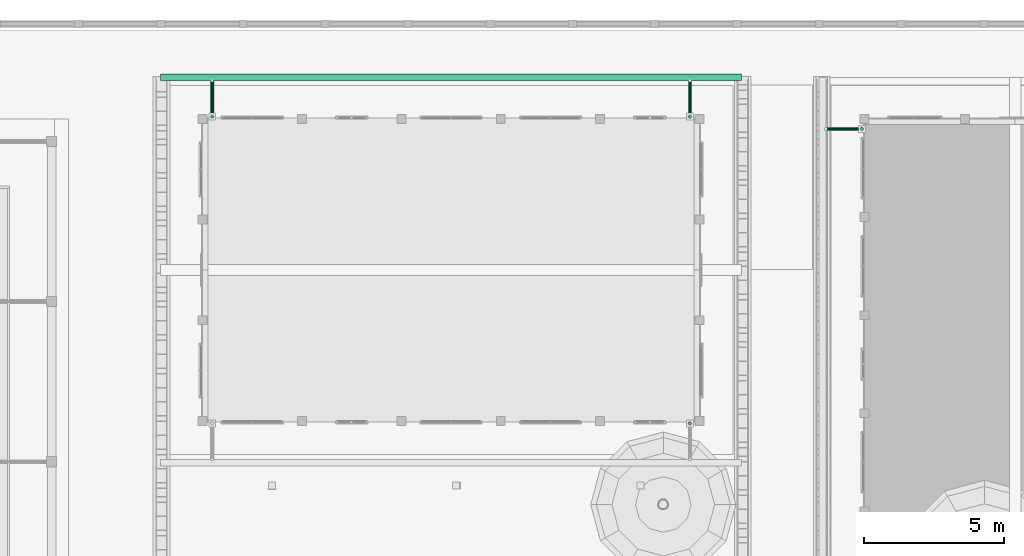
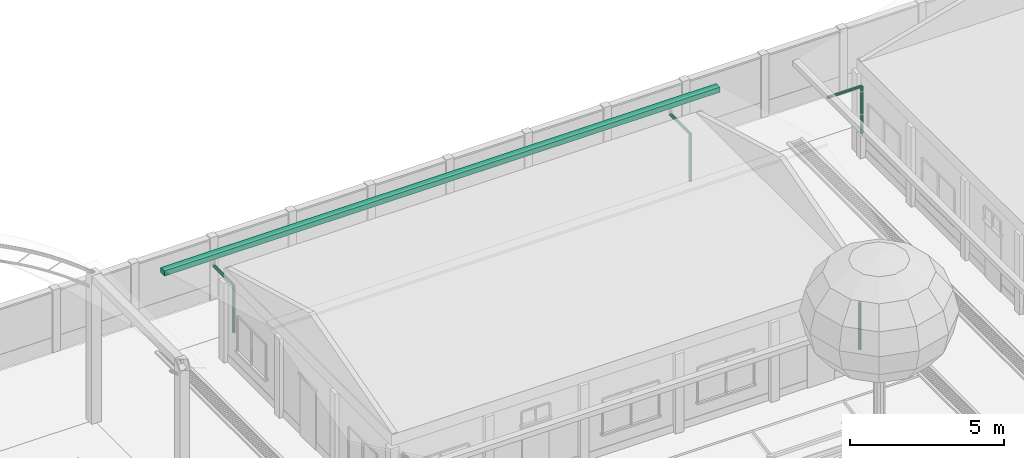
# One storey, part 104 of 166: 8 flow segments.
"""IFC2X3 building model written with IfcOpenShell, lengths in metres."""

from ifc_helpers import new_model, si_unit, origin, origin_with_axes, place, context, subcontext, project, spatial, faceted_brep, element, save


model = new_model("IFC2X3")

# Units and contexts
model_context = context("Model", 3, precision=1e-05, world=origin_with_axes())
body_context = subcontext(model_context, "Body", "Model", "MODEL_VIEW")
ifc_project = project(units=[si_unit("LENGTHUNIT", "METRE"), si_unit("AREAUNIT", "SQUARE_METRE"), si_unit("VOLUMEUNIT", "CUBIC_METRE"), si_unit("PLANEANGLEUNIT", "RADIAN")], contexts=[model_context])

# Site, building, storey
site_placement = place(None, origin_with_axes())
site = spatial("IfcSite", under=ifc_project, at=site_placement, Name="Predio Los Mangos - Morales, San Martín", CompositionType="ELEMENT")
building_placement = place(site_placement, origin())
building = spatial("IfcBuilding", under=site, at=building_placement, Name="Hogar de Refugio Temporal", CompositionType="ELEMENT")
storey_placement = place(building_placement, origin())
storey = spatial("IfcBuildingStorey", under=building, at=storey_placement, Name="NIVEL 1 (NPT +0.00)", CompositionType="ELEMENT", Elevation=0.0)

# Flow segments
flow_segment_1_placement = place(storey_placement, origin())
element("IfcFlowSegment", 1, at=flow_segment_1_placement, inside=storey, Name="E-08_canaleta", ObjectType="Canaleta", context=body_context, shape_type="Brep", body=[
    faceted_brep([(30.5, 129.18, 3.13), (30.5, 129.42, 3.13), (51.3, 129.42, 3.13), (51.3, 129.18, 3.13), (30.5, 129.18, 3.33), (51.3, 129.18, 3.33), (51.3, 129.42, 3.33), (30.5, 129.42, 3.33)], [[[0, 1, 2, 3]], [[4, 5, 6, 7]], [[0, 3, 5, 4]], [[3, 2, 6, 5]], [[2, 1, 7, 6]], [[1, 0, 4, 7]]]),
])
flow_segment_2_placement = place(storey_placement, origin())
element("IfcFlowSegment", 2, at=flow_segment_2_placement, inside=storey, Name="montante_bajada", ObjectType="Montante PVC 4\"", context=body_context, shape_type="Brep", body=[
    faceted_brep([(49.45, 116.965, 2.91), (49.45, 116.965, 1.05), (49.4225, 116.9576, 1.05), (49.4225, 116.9576, 2.91), (49.4024, 116.9375, 1.05), (49.4024, 116.9375, 2.91), (49.395, 116.91, 1.05), (49.395, 116.91, 2.91), (49.4024, 116.8825, 1.05), (49.4024, 116.8825, 2.91), (49.4225, 116.8624, 1.05), (49.4225, 116.8624, 2.91), (49.45, 116.855, 1.05), (49.45, 116.855, 2.91), (49.4775, 116.8624, 1.05), (49.4775, 116.8624, 2.91), (49.4976, 116.8825, 1.05), (49.4976, 116.8825, 2.91), (49.505, 116.91, 1.05), (49.505, 116.91, 2.91), (49.4976, 116.9375, 1.05), (49.4976, 116.9375, 2.91), (49.4775, 116.9576, 1.05), (49.4775, 116.9576, 2.91)], [[[0, 1, 2, 3]], [[3, 2, 4, 5]], [[5, 4, 6, 7]], [[7, 6, 8, 9]], [[9, 8, 10, 11]], [[11, 10, 12, 13]], [[13, 12, 14, 15]], [[15, 14, 16, 17]], [[17, 16, 18, 19]], [[19, 18, 20, 21]], [[2, 1, 22, 20, 18, 16, 14, 12, 10, 8, 6, 4]], [[21, 20, 22, 23]], [[23, 22, 1, 0]], [[0, 3, 5, 7, 9, 11, 13, 15, 17, 19, 21, 23]]]),
])
flow_segment_3_placement = place(storey_placement, origin())
element("IfcFlowSegment", 3, at=flow_segment_3_placement, inside=storey, Name="montante_desvio", ObjectType="Montante PVC 4\"", context=body_context, shape_type="Brep", body=[
    faceted_brep([(32.35, 129.18, 2.965), (32.35, 127.89, 2.965), (32.3775, 127.89, 2.9576), (32.3775, 129.18, 2.9576), (32.3976, 127.89, 2.9375), (32.3976, 129.18, 2.9375), (32.405, 127.89, 2.91), (32.405, 129.18, 2.91), (32.3976, 127.89, 2.8825), (32.3976, 129.18, 2.8825), (32.3775, 127.89, 2.8624), (32.3775, 129.18, 2.8624), (32.35, 127.89, 2.855), (32.35, 129.18, 2.855), (32.3225, 127.89, 2.8624), (32.3225, 129.18, 2.8624), (32.3024, 127.89, 2.8825), (32.3024, 129.18, 2.8825), (32.295, 127.89, 2.91), (32.295, 129.18, 2.91), (32.3024, 127.89, 2.9375), (32.3024, 129.18, 2.9375), (32.3225, 127.89, 2.9576), (32.3225, 129.18, 2.9576)], [[[0, 1, 2, 3]], [[3, 2, 4, 5]], [[5, 4, 6, 7]], [[7, 6, 8, 9]], [[9, 8, 10, 11]], [[11, 10, 12, 13]], [[13, 12, 14, 15]], [[15, 14, 16, 17]], [[17, 16, 18, 19]], [[19, 18, 20, 21]], [[2, 1, 22, 20, 18, 16, 14, 12, 10, 8, 6, 4]], [[21, 20, 22, 23]], [[23, 22, 1, 0]], [[0, 3, 5, 7, 9, 11, 13, 15, 17, 19, 21, 23]]]),
])
flow_segment_4_placement = place(storey_placement, origin())
element("IfcFlowSegment", 4, at=flow_segment_4_placement, inside=storey, Name="montante_bajada", ObjectType="Montante PVC 4\"", context=body_context, shape_type="Brep", body=[
    faceted_brep([(32.35, 127.945, 2.91), (32.35, 127.945, 1.05), (32.3225, 127.9376, 1.05), (32.3225, 127.9376, 2.91), (32.3024, 127.9175, 1.05), (32.3024, 127.9175, 2.91), (32.295, 127.89, 1.05), (32.295, 127.89, 2.91), (32.3024, 127.8625, 1.05), (32.3024, 127.8625, 2.91), (32.3225, 127.8424, 1.05), (32.3225, 127.8424, 2.91), (32.35, 127.835, 1.05), (32.35, 127.835, 2.91), (32.3775, 127.8424, 1.05), (32.3775, 127.8424, 2.91), (32.3976, 127.8625, 1.05), (32.3976, 127.8625, 2.91), (32.405, 127.89, 1.05), (32.405, 127.89, 2.91), (32.3976, 127.9175, 1.05), (32.3976, 127.9175, 2.91), (32.3775, 127.9376, 1.05), (32.3775, 127.9376, 2.91)], [[[0, 1, 2, 3]], [[3, 2, 4, 5]], [[5, 4, 6, 7]], [[7, 6, 8, 9]], [[9, 8, 10, 11]], [[11, 10, 12, 13]], [[13, 12, 14, 15]], [[15, 14, 16, 17]], [[17, 16, 18, 19]], [[19, 18, 20, 21]], [[2, 1, 22, 20, 18, 16, 14, 12, 10, 8, 6, 4]], [[21, 20, 22, 23]], [[23, 22, 1, 0]], [[0, 3, 5, 7, 9, 11, 13, 15, 17, 19, 21, 23]]]),
])
flow_segment_5_placement = place(storey_placement, origin())
element("IfcFlowSegment", 5, at=flow_segment_5_placement, inside=storey, Name="montante_desvio", ObjectType="Montante PVC 4\"", context=body_context, shape_type="Brep", body=[
    faceted_brep([(49.45, 129.18, 2.965), (49.45, 127.89, 2.965), (49.4775, 127.89, 2.9576), (49.4775, 129.18, 2.9576), (49.4976, 127.89, 2.9375), (49.4976, 129.18, 2.9375), (49.505, 127.89, 2.91), (49.505, 129.18, 2.91), (49.4976, 127.89, 2.8825), (49.4976, 129.18, 2.8825), (49.4775, 127.89, 2.8624), (49.4775, 129.18, 2.8624), (49.45, 127.89, 2.855), (49.45, 129.18, 2.855), (49.4225, 127.89, 2.8624), (49.4225, 129.18, 2.8624), (49.4024, 127.89, 2.8825), (49.4024, 129.18, 2.8825), (49.395, 127.89, 2.91), (49.395, 129.18, 2.91), (49.4024, 127.89, 2.9375), (49.4024, 129.18, 2.9375), (49.4225, 127.89, 2.9576), (49.4225, 129.18, 2.9576)], [[[0, 1, 2, 3]], [[3, 2, 4, 5]], [[5, 4, 6, 7]], [[7, 6, 8, 9]], [[9, 8, 10, 11]], [[11, 10, 12, 13]], [[13, 12, 14, 15]], [[15, 14, 16, 17]], [[17, 16, 18, 19]], [[19, 18, 20, 21]], [[2, 1, 22, 20, 18, 16, 14, 12, 10, 8, 6, 4]], [[21, 20, 22, 23]], [[23, 22, 1, 0]], [[0, 3, 5, 7, 9, 11, 13, 15, 17, 19, 21, 23]]]),
])
flow_segment_6_placement = place(storey_placement, origin())
element("IfcFlowSegment", 6, at=flow_segment_6_placement, inside=storey, Name="montante_bajada", ObjectType="Montante PVC 4\"", context=body_context, shape_type="Brep", body=[
    faceted_brep([(49.45, 127.945, 2.91), (49.45, 127.945, 1.05), (49.4225, 127.9376, 1.05), (49.4225, 127.9376, 2.91), (49.4024, 127.9175, 1.05), (49.4024, 127.9175, 2.91), (49.395, 127.89, 1.05), (49.395, 127.89, 2.91), (49.4024, 127.8625, 1.05), (49.4024, 127.8625, 2.91), (49.4225, 127.8424, 1.05), (49.4225, 127.8424, 2.91), (49.45, 127.835, 1.05), (49.45, 127.835, 2.91), (49.4775, 127.8424, 1.05), (49.4775, 127.8424, 2.91), (49.4976, 127.8625, 1.05), (49.4976, 127.8625, 2.91), (49.505, 127.89, 1.05), (49.505, 127.89, 2.91), (49.4976, 127.9175, 1.05), (49.4976, 127.9175, 2.91), (49.4775, 127.9376, 1.05), (49.4775, 127.9376, 2.91)], [[[0, 1, 2, 3]], [[3, 2, 4, 5]], [[5, 4, 6, 7]], [[7, 6, 8, 9]], [[9, 8, 10, 11]], [[11, 10, 12, 13]], [[13, 12, 14, 15]], [[15, 14, 16, 17]], [[17, 16, 18, 19]], [[19, 18, 20, 21]], [[2, 1, 22, 20, 18, 16, 14, 12, 10, 8, 6, 4]], [[21, 20, 22, 23]], [[23, 22, 1, 0]], [[0, 3, 5, 7, 9, 11, 13, 15, 17, 19, 21, 23]]]),
])
flow_segment_7_placement = place(storey_placement, origin())
element("IfcFlowSegment", 7, at=flow_segment_7_placement, inside=storey, Name="montante_desvio", ObjectType="Montante PVC 4\"", context=body_context, shape_type="Brep", body=[
    faceted_brep([(54.32, 127.45, 2.965), (55.61, 127.45, 2.965), (55.61, 127.4775, 2.9576), (54.32, 127.4775, 2.9576), (55.61, 127.4976, 2.9375), (54.32, 127.4976, 2.9375), (55.61, 127.505, 2.91), (54.32, 127.505, 2.91), (55.61, 127.4976, 2.8825), (54.32, 127.4976, 2.8825), (55.61, 127.4775, 2.8624), (54.32, 127.4775, 2.8624), (55.61, 127.45, 2.855), (54.32, 127.45, 2.855), (55.61, 127.4225, 2.8624), (54.32, 127.4225, 2.8624), (55.61, 127.4024, 2.8825), (54.32, 127.4024, 2.8825), (55.61, 127.395, 2.91), (54.32, 127.395, 2.91), (55.61, 127.4024, 2.9375), (54.32, 127.4024, 2.9375), (55.61, 127.4225, 2.9576), (54.32, 127.4225, 2.9576)], [[[0, 1, 2, 3]], [[3, 2, 4, 5]], [[5, 4, 6, 7]], [[7, 6, 8, 9]], [[9, 8, 10, 11]], [[11, 10, 12, 13]], [[13, 12, 14, 15]], [[15, 14, 16, 17]], [[17, 16, 18, 19]], [[19, 18, 20, 21]], [[2, 1, 22, 20, 18, 16, 14, 12, 10, 8, 6, 4]], [[21, 20, 22, 23]], [[23, 22, 1, 0]], [[0, 3, 5, 7, 9, 11, 13, 15, 17, 19, 21, 23]]]),
])
flow_segment_8_placement = place(storey_placement, origin())
element("IfcFlowSegment", 8, at=flow_segment_8_placement, inside=storey, Name="montante_bajada", ObjectType="Montante PVC 4\"", context=body_context, shape_type="Brep", body=[
    faceted_brep([(55.61, 127.505, 2.91), (55.61, 127.505, 1.05), (55.5825, 127.4976, 1.05), (55.5825, 127.4976, 2.91), (55.5624, 127.4775, 1.05), (55.5624, 127.4775, 2.91), (55.555, 127.45, 1.05), (55.555, 127.45, 2.91), (55.5624, 127.4225, 1.05), (55.5624, 127.4225, 2.91), (55.5825, 127.4024, 1.05), (55.5825, 127.4024, 2.91), (55.61, 127.395, 1.05), (55.61, 127.395, 2.91), (55.6375, 127.4024, 1.05), (55.6375, 127.4024, 2.91), (55.6576, 127.4225, 1.05), (55.6576, 127.4225, 2.91), (55.665, 127.45, 1.05), (55.665, 127.45, 2.91), (55.6576, 127.4775, 1.05), (55.6576, 127.4775, 2.91), (55.6375, 127.4976, 1.05), (55.6375, 127.4976, 2.91)], [[[0, 1, 2, 3]], [[3, 2, 4, 5]], [[5, 4, 6, 7]], [[7, 6, 8, 9]], [[9, 8, 10, 11]], [[11, 10, 12, 13]], [[13, 12, 14, 15]], [[15, 14, 16, 17]], [[17, 16, 18, 19]], [[19, 18, 20, 21]], [[2, 1, 22, 20, 18, 16, 14, 12, 10, 8, 6, 4]], [[21, 20, 22, 23]], [[23, 22, 1, 0]], [[0, 3, 5, 7, 9, 11, 13, 15, 17, 19, 21, 23]]]),
])

save(model, "model.ifc")
